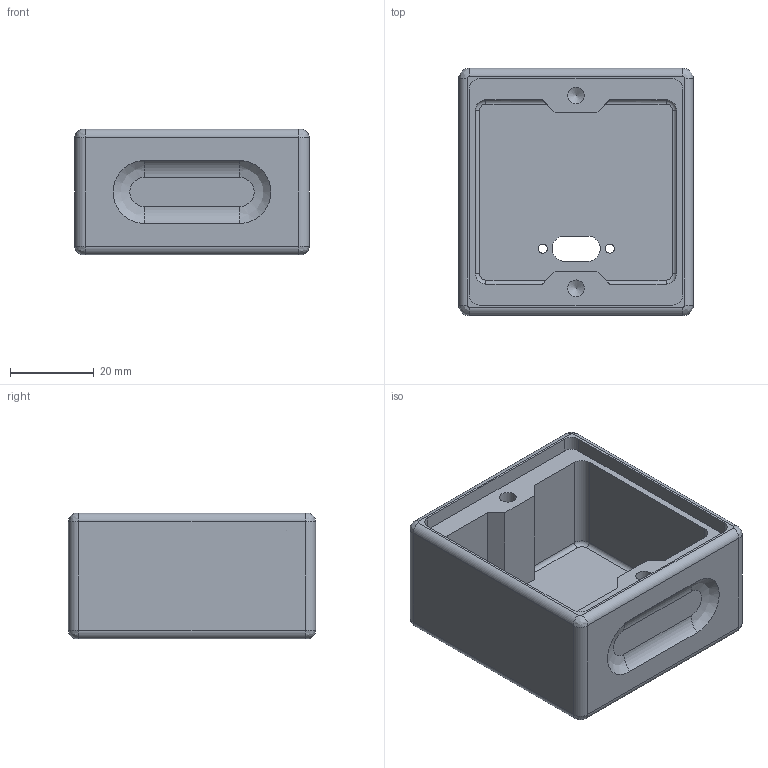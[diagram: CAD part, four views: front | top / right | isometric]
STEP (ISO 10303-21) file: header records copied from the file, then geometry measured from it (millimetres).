
FILE_DESCRIPTION(/* description */ ('','CAx-IF Rec.Pracs.---Representation and Presentation of Product Manufacturing Information (PMI)---4.0---2014-10-13'),/* implementation_level */ '2;1');
FILE_NAME(/* name */ 'NeoLED5x5 box v5.step',/* time_stamp */ '2025-01-28T14:13:13-05:00',/* author */ (''),/* organization */ (''),/* preprocessor_version */ 'ST-DEVELOPER v20',/* originating_system */ 'Autodesk Translation Framework v13.20.0.188',/* authorisation */ '');
FILE_SCHEMA (('AP242_MANAGED_MODEL_BASED_3D_ENGINEERING_MIM_LF { 1 0 10303 442 1 1 4 }'));
Length unit declared in the file: millimetre
Products named in the file (1): NeoLED5x5 box
Bounding box: 56 x 59 x 30 mm (x, y, z)
Volume: 37235.3 mm3; surface area: 18473.1 mm2
Topology: 1 solids, 1 shells, 82 faces, 202 edges, 126 vertices
Faces by surface type: cylinder 36, plane 28, bspline 12, torus 4, cone 2
Full cylindrical faces by diameter (mm): 2.2 x2, 4 x2
Entity records: 2537 total; most frequent: CARTESIAN_POINT 529, DIRECTION 434, ORIENTED_EDGE 400, EDGE_CURVE 200, AXIS2_PLACEMENT_3D 163, VERTEX_POINT 126, LINE 108, VECTOR 108
